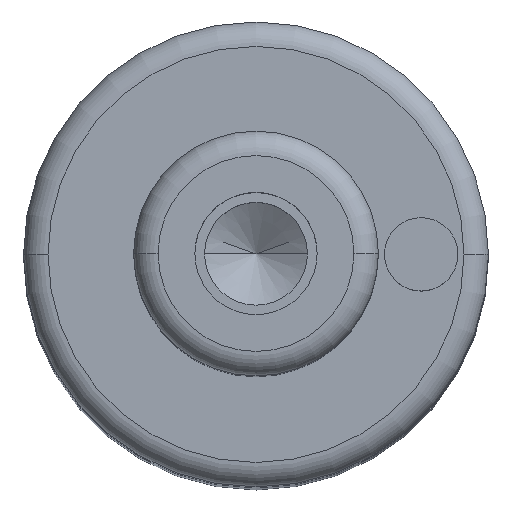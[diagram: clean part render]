
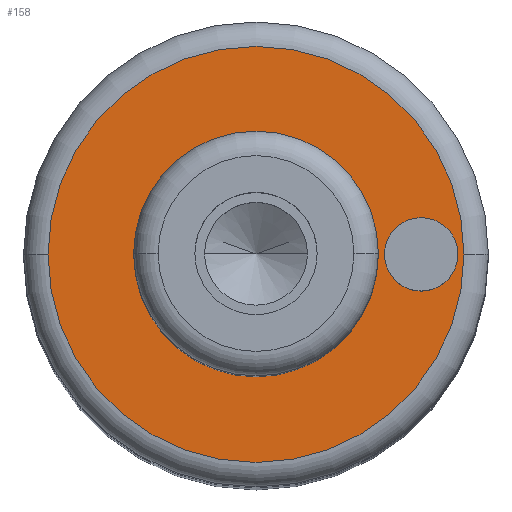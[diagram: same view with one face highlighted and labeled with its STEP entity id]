
A CAD part, top view. The second image highlights one B-rep face of the part: STEP entity #158.
In plain terms, the highlighted planar face has unit normal (0, 0, 1).
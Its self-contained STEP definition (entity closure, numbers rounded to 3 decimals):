
#105=PLANE('',#628);
#113=FACE_BOUND('',#229,.T.);
#114=FACE_BOUND('',#230,.T.);
#115=FACE_BOUND('',#231,.T.);
#158=ADVANCED_FACE('',(#113,#114,#115),#105,.T.);
#229=EDGE_LOOP('',(#375,#376));
#230=EDGE_LOOP('',(#377,#378));
#231=EDGE_LOOP('',(#379,#380));
#259=CIRCLE('',#596,5.);
#260=CIRCLE('',#598,5.);
#264=CIRCLE('',#603,8.5);
#265=CIRCLE('',#605,8.5);
#277=CIRCLE('',#626,1.5);
#278=CIRCLE('',#627,1.5);
#375=ORIENTED_EDGE('',*,*,#488,.F.);
#376=ORIENTED_EDGE('',*,*,#489,.F.);
#377=ORIENTED_EDGE('',*,*,#507,.F.);
#378=ORIENTED_EDGE('',*,*,#508,.F.);
#379=ORIENTED_EDGE('',*,*,#484,.T.);
#380=ORIENTED_EDGE('',*,*,#482,.T.);
#434=VERTEX_POINT('',#875);
#435=VERTEX_POINT('',#877);
#436=VERTEX_POINT('',#883);
#439=VERTEX_POINT('',#888);
#448=VERTEX_POINT('',#927);
#449=VERTEX_POINT('',#928);
#482=EDGE_CURVE('',#435,#434,#259,.T.);
#484=EDGE_CURVE('',#434,#435,#260,.T.);
#488=EDGE_CURVE('',#439,#436,#264,.T.);
#489=EDGE_CURVE('',#436,#439,#265,.T.);
#507=EDGE_CURVE('',#448,#449,#277,.T.);
#508=EDGE_CURVE('',#449,#448,#278,.T.);
#596=AXIS2_PLACEMENT_3D('',#876,#707,#708);
#598=AXIS2_PLACEMENT_3D('',#880,#712,#713);
#603=AXIS2_PLACEMENT_3D('',#889,#722,#723);
#605=AXIS2_PLACEMENT_3D('',#891,#726,#727);
#626=AXIS2_PLACEMENT_3D('',#926,#774,#775);
#627=AXIS2_PLACEMENT_3D('',#929,#776,#777);
#628=AXIS2_PLACEMENT_3D('',#930,#778,#779);
#707=DIRECTION('',(0.,0.,-1.));
#708=DIRECTION('',(0.,1.,0.));
#712=DIRECTION('',(0.,0.,-1.));
#713=DIRECTION('',(0.,-1.,0.));
#722=DIRECTION('',(0.,0.,-1.));
#723=DIRECTION('',(0.,1.,0.));
#726=DIRECTION('',(0.,0.,-1.));
#727=DIRECTION('',(0.,-1.,0.));
#774=DIRECTION('',(0.,0.,1.));
#775=DIRECTION('',(0.,1.,0.));
#776=DIRECTION('',(0.,0.,1.));
#777=DIRECTION('',(0.,-1.,0.));
#778=DIRECTION('',(0.,0.,1.));
#779=DIRECTION('',(0.,-1.,0.));
#875=CARTESIAN_POINT('',(-5.,0.,73.));
#876=CARTESIAN_POINT('',(0.,0.,73.));
#877=CARTESIAN_POINT('',(5.,0.,73.));
#880=CARTESIAN_POINT('',(0.,0.,73.));
#883=CARTESIAN_POINT('',(-8.5,0.,73.));
#888=CARTESIAN_POINT('',(8.5,0.,73.));
#889=CARTESIAN_POINT('',(0.,0.,73.));
#891=CARTESIAN_POINT('',(0.,0.,73.));
#926=CARTESIAN_POINT('',(6.75,0.,73.));
#927=CARTESIAN_POINT('',(5.25,0.,73.));
#928=CARTESIAN_POINT('',(8.25,0.,73.));
#929=CARTESIAN_POINT('',(6.75,0.,73.));
#930=CARTESIAN_POINT('',(0.,0.,73.));
